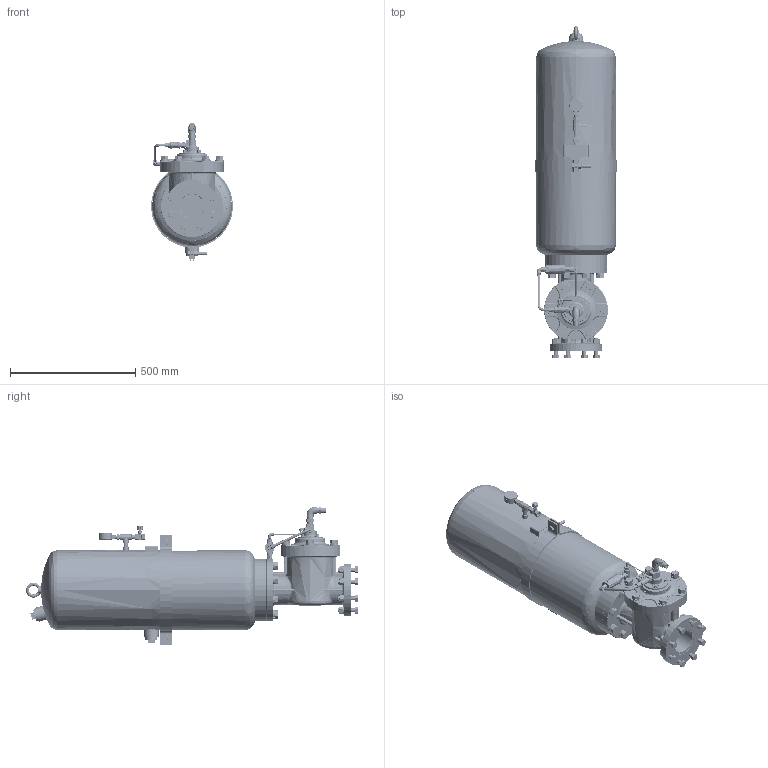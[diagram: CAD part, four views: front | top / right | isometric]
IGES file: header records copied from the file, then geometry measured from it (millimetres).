
Start section: SolidWorks IGES file using analytic representation for surfaces
Global section: file name: V:\WORK\08133\HP 寸法図\blaster\EDB4-60\test_875000V-000 EDB4-60_defeature.IGS,15; native system: HSolidWorks 2018; preprocessor: SolidWorks 2018; author: n-udagawa; date: 230118.154342; units: millimetre
Bounding box: 327.11 x 1327.75 x 553 mm (x, y, z)
Surface area: 1700522.2 mm2 (no closed solid volume)
Topology: 0 solids, 0 shells, 2352 faces, 40632 edges, 46166 vertices
Faces by surface type: bspline 1246, revolution 1106
